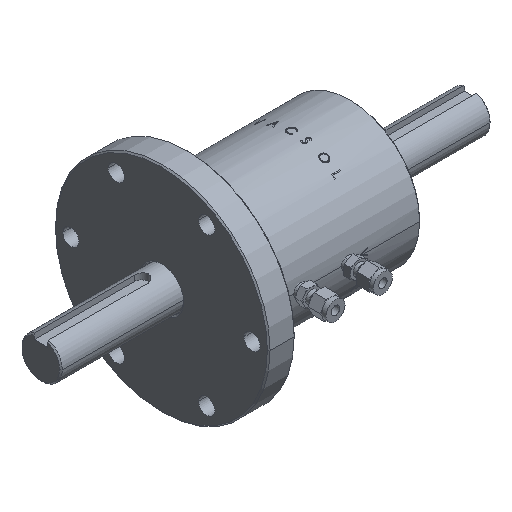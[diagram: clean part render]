
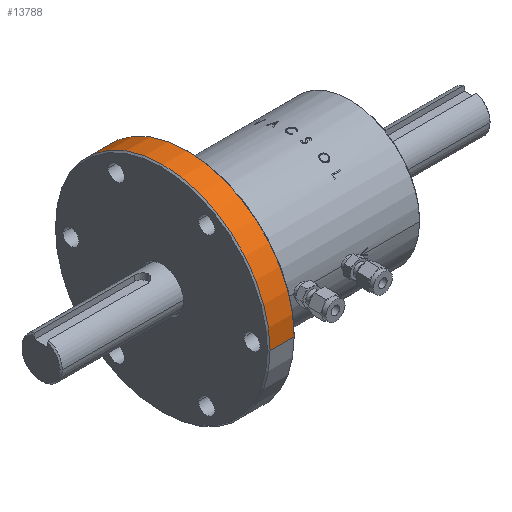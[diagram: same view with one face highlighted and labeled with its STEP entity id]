
A CAD part, isometric view. The second image highlights one B-rep face of the part: STEP entity #13788.
In plain terms, the highlighted cylindrical face has radius 80 mm (diameter 160 mm), a partial arc.
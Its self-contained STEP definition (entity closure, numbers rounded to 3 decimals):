
#13788 = ADVANCED_FACE ( 'NONE', ( #21750 ), #21748, .T. ) ;
#13790 = EDGE_LOOP ( 'NONE', ( #13859, #13862, #13860, #13854 ) ) ;
#13854 = ORIENTED_EDGE ( 'NONE', *, *, #13858, .F. ) ;
#13858 = EDGE_CURVE ( 'NONE', #14512, #14527, #21846, .T. ) ;
#13859 = ORIENTED_EDGE ( 'NONE', *, *, #14534, .T. ) ;
#13860 = ORIENTED_EDGE ( 'NONE', *, *, #14509, .T. ) ;
#13861 = EDGE_CURVE ( 'NONE', #14610, #14510, #21900, .T. ) ;
#13862 = ORIENTED_EDGE ( 'NONE', *, *, #13861, .T. ) ;
#14509 = EDGE_CURVE ( 'NONE', #14510, #14527, #24951, .T. ) ;
#14510 = VERTEX_POINT ( 'NONE', #24947 ) ;
#14512 = VERTEX_POINT ( 'NONE', #24946 ) ;
#14527 = VERTEX_POINT ( 'NONE', #24928 ) ;
#14534 = EDGE_CURVE ( 'NONE', #14512, #14610, #24982, .T. ) ;
#14610 = VERTEX_POINT ( 'NONE', #25065 ) ;
#21745 = DIRECTION ( 'NONE',  ( 0., 1., 0. ) ) ;
#21746 = DIRECTION ( 'NONE',  ( 1., 0., 0. ) ) ;
#21747 = AXIS2_PLACEMENT_3D ( 'NONE', #21749, #21746, #21745 ) ;
#21748 = CYLINDRICAL_SURFACE ( 'NONE', #21747, 80. ) ;
#21749 = CARTESIAN_POINT ( 'NONE',  ( 321., 0., 0. ) ) ;
#21750 = FACE_OUTER_BOUND ( 'NONE', #13790, .T. ) ;
#21844 = VECTOR ( 'NONE', #21901, 1000. ) ;
#21845 = CARTESIAN_POINT ( 'NONE',  ( 321., 80., 0. ) ) ;
#21846 = LINE ( 'NONE', #21845, #21844 ) ;
#21897 = DIRECTION ( 'NONE',  ( 1., 0., 0. ) ) ;
#21898 = VECTOR ( 'NONE', #21897, 1000. ) ;
#21899 = CARTESIAN_POINT ( 'NONE',  ( 321., -80., 0. ) ) ;
#21900 = LINE ( 'NONE', #21899, #21898 ) ;
#21901 = DIRECTION ( 'NONE',  ( 1., 0., 0. ) ) ;
#24890 = CARTESIAN_POINT ( 'NONE',  ( 109., 0., 0. ) ) ;
#24928 = CARTESIAN_POINT ( 'NONE',  ( 109., 80., 0. ) ) ;
#24946 = CARTESIAN_POINT ( 'NONE',  ( 91., 80., 0. ) ) ;
#24947 = CARTESIAN_POINT ( 'NONE',  ( 109., -80., 0. ) ) ;
#24948 = DIRECTION ( 'NONE',  ( 0., 1., 0. ) ) ;
#24949 = DIRECTION ( 'NONE',  ( -1., 0., 0. ) ) ;
#24950 = AXIS2_PLACEMENT_3D ( 'NONE', #24890, #24949, #24948 ) ;
#24951 = CIRCLE ( 'NONE', #24950, 80. ) ;
#24978 = DIRECTION ( 'NONE',  ( 0., -1., 0. ) ) ;
#24979 = DIRECTION ( 'NONE',  ( 1., 0., 0. ) ) ;
#24980 = CARTESIAN_POINT ( 'NONE',  ( 91., 0., 0. ) ) ;
#24981 = AXIS2_PLACEMENT_3D ( 'NONE', #24980, #24979, #24978 ) ;
#24982 = CIRCLE ( 'NONE', #24981, 80. ) ;
#25065 = CARTESIAN_POINT ( 'NONE',  ( 91., -80., 0. ) ) ;
